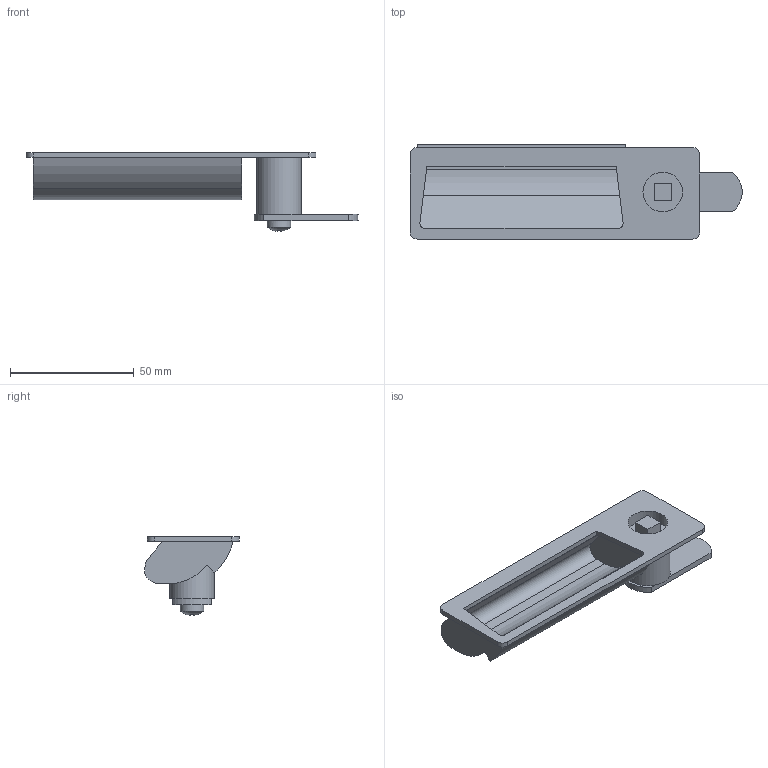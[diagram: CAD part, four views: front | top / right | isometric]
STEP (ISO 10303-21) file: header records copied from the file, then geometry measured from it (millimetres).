
FILE_DESCRIPTION( ( 'STEP AP203' ), '1' );
FILE_NAME( 'C:/Temp/Ganter_Step_05_03_2020/data/3_3/gn731_5/gn731_5_2/Latche with gripping tray GN 731.5-VK-0-32-2-SG (0-23).stp', '2020-03-12T11:49:33', ( 'License CC BY-ND 4.0' ), ( 'CADENAS' ), ' ', 'PARTsolutions', ' ' );
FILE_SCHEMA( ( 'CONFIG_CONTROL_DESIGN' ) );
Length unit declared in the file: millimetre
Products named in the file (3): Latche with gripping tray GN 731.5-VK-0-32-2-SG (0-23); _Latche with gripping tray GN 731.5-VK-0-32-2-SG (0)_1; _Latche with gripping tray GN 731.5-VK-0-32-2-SG (0-23)_2
Assembly tree (2 placements, depth 2):
  Latche with gripping tray GN 731.5-VK-0-32-2-SG (0-23)
    _Latche with gripping tray GN 731.5-VK-0-32-2-SG (0)_1
    _Latche with gripping tray GN 731.5-VK-0-32-2-SG (0-23)_2
Bounding box: 133.96 x 38 x 31.88 mm (x, y, z)
Volume: 23843.7 mm3; surface area: 19991.1 mm2
Topology: 2 solids, 2 shells, 85 faces, 215 edges, 140 vertices
Faces by surface type: plane 64, cylinder 20, sphere 1
Full cylindrical faces by diameter (mm): 9.5 x1, 16 x1, 18 x1
Entity records: 2615 total; most frequent: DIRECTION 445, CARTESIAN_POINT 433, ORIENTED_EDGE 416, EDGE_CURVE 208, AXIS2_PLACEMENT_3D 149, LINE 147, VECTOR 147, VERTEX_POINT 137
